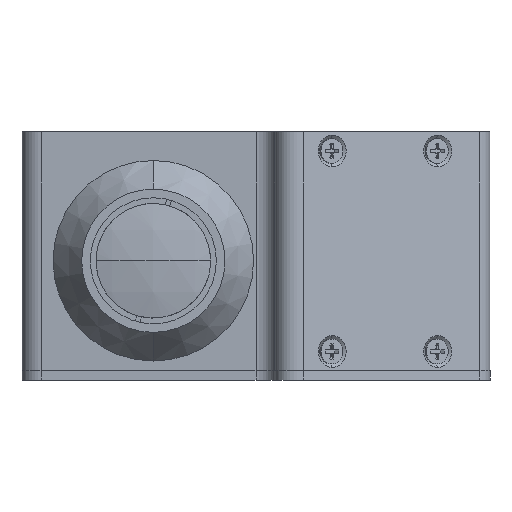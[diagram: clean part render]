
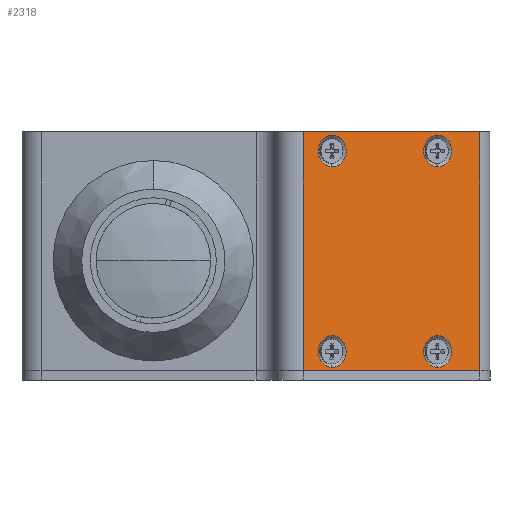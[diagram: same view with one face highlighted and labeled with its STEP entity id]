
A CAD part, left-side view. The second image highlights one B-rep face of the part: STEP entity #2318.
In plain terms, the highlighted planar face has unit normal (-0.883, -0.469, 0).
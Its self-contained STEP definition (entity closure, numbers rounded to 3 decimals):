
#390 = CARTESIAN_POINT ( 'NONE',  ( 54.176, -59.548, 19.7 ) ) ;
#497 = DIRECTION ( 'NONE',  ( -0.883, -0.469, 0. ) ) ;
#635 = CARTESIAN_POINT ( 'NONE',  ( 62.112, -74.473, -23. ) ) ;
#844 = FACE_BOUND ( 'NONE', #11584, .T. ) ;
#852 = EDGE_CURVE ( 'NONE', #2291, #12180, #873, .T. ) ;
#873 = CIRCLE ( 'NONE', #11207, 3.3 ) ;
#1096 = CARTESIAN_POINT ( 'NONE',  ( 42.439, -37.475, 23. ) ) ;
#1155 = LINE ( 'NONE', #635, #6713 ) ;
#1404 = LINE ( 'NONE', #13770, #3794 ) ;
#1427 = ORIENTED_EDGE ( 'NONE', *, *, #3530, .T. ) ;
#1550 = VERTEX_POINT ( 'NONE', #11408 ) ;
#1559 = ORIENTED_EDGE ( 'NONE', *, *, #10800, .F. ) ;
#1616 = AXIS2_PLACEMENT_3D ( 'NONE', #11337, #4250, #12520 ) ;
#1632 = DIRECTION ( 'NONE',  ( 0., 0., -1. ) ) ;
#1800 = CARTESIAN_POINT ( 'NONE',  ( 54.176, -59.548, 23. ) ) ;
#1947 = VERTEX_POINT ( 'NONE', #8772 ) ;
#2019 = CIRCLE ( 'NONE', #13973, 3.3 ) ;
#2121 = CARTESIAN_POINT ( 'NONE',  ( 42.439, -37.475, 19.7 ) ) ;
#2217 = ORIENTED_EDGE ( 'NONE', *, *, #12418, .F. ) ;
#2244 = CARTESIAN_POINT ( 'NONE',  ( 42.439, -37.475, 26.3 ) ) ;
#2251 = DIRECTION ( 'NONE',  ( 0., 0., 1. ) ) ;
#2291 = VERTEX_POINT ( 'NONE', #15095 ) ;
#2318 = ADVANCED_FACE ( 'NONE', ( #10265, #844, #13017, #13386, #9906 ), #12779, .T. ) ;
#2412 = CARTESIAN_POINT ( 'NONE',  ( 42.439, -37.475, -19. ) ) ;
#2596 = LINE ( 'NONE', #11936, #11667 ) ;
#2992 = DIRECTION ( 'NONE',  ( 0., 0., 1. ) ) ;
#3253 = VERTEX_POINT ( 'NONE', #2244 ) ;
#3307 = CIRCLE ( 'NONE', #1616, 3.3 ) ;
#3336 = CIRCLE ( 'NONE', #10706, 3.3 ) ;
#3488 = DIRECTION ( 'NONE',  ( -0.883, -0.469, 0. ) ) ;
#3530 = EDGE_CURVE ( 'NONE', #1947, #9601, #4133, .T. ) ;
#3590 = DIRECTION ( 'NONE',  ( 0., 0., 1. ) ) ;
#3794 = VECTOR ( 'NONE', #6725, 1000. ) ;
#4082 = EDGE_CURVE ( 'NONE', #3253, #12528, #6551, .T. ) ;
#4114 = CARTESIAN_POINT ( 'NONE',  ( 54.176, -59.548, -15.7 ) ) ;
#4133 = LINE ( 'NONE', #14628, #10431 ) ;
#4250 = DIRECTION ( 'NONE',  ( -0.883, -0.469, 0. ) ) ;
#4919 = DIRECTION ( 'NONE',  ( -0.883, -0.469, 0. ) ) ;
#5292 = CARTESIAN_POINT ( 'NONE',  ( 42.439, -37.475, -19. ) ) ;
#6143 = CARTESIAN_POINT ( 'NONE',  ( 54.176, -59.548, -22.3 ) ) ;
#6494 = DIRECTION ( 'NONE',  ( 0., 0., 1. ) ) ;
#6551 = CIRCLE ( 'NONE', #6607, 3.3 ) ;
#6607 = AXIS2_PLACEMENT_3D ( 'NONE', #7563, #497, #8761 ) ;
#6637 = CARTESIAN_POINT ( 'NONE',  ( 58.871, -68.378, -23. ) ) ;
#6648 = EDGE_CURVE ( 'NONE', #11627, #11763, #13680, .T. ) ;
#6679 = ORIENTED_EDGE ( 'NONE', *, *, #4082, .F. ) ;
#6713 = VECTOR ( 'NONE', #7697, 1000. ) ;
#6725 = DIRECTION ( 'NONE',  ( 0., 0., 1. ) ) ;
#6859 = ORIENTED_EDGE ( 'NONE', *, *, #12948, .F. ) ;
#6914 = DIRECTION ( 'NONE',  ( -0.883, -0.469, 0. ) ) ;
#7170 = ORIENTED_EDGE ( 'NONE', *, *, #6648, .F. ) ;
#7273 = CARTESIAN_POINT ( 'NONE',  ( 58.871, -68.378, 27. ) ) ;
#7482 = EDGE_LOOP ( 'NONE', ( #7836, #6859 ) ) ;
#7563 = CARTESIAN_POINT ( 'NONE',  ( 42.439, -37.475, 23. ) ) ;
#7697 = DIRECTION ( 'NONE',  ( -0.469, 0.883, 0. ) ) ;
#7836 = ORIENTED_EDGE ( 'NONE', *, *, #15094, .F. ) ;
#8170 = EDGE_LOOP ( 'NONE', ( #1559, #9545, #11996, #1427 ) ) ;
#8377 = EDGE_CURVE ( 'NONE', #12528, #3253, #12325, .T. ) ;
#8385 = DIRECTION ( 'NONE',  ( 0.469, -0.883, 0. ) ) ;
#8613 = CIRCLE ( 'NONE', #14785, 3.3 ) ;
#8761 = DIRECTION ( 'NONE',  ( 0., 0., 1. ) ) ;
#8772 = CARTESIAN_POINT ( 'NONE',  ( 39.181, -31.348, 27. ) ) ;
#8841 = EDGE_CURVE ( 'NONE', #13710, #14035, #1404, .T. ) ;
#9369 = DIRECTION ( 'NONE',  ( -0.883, -0.469, 0. ) ) ;
#9533 = CARTESIAN_POINT ( 'NONE',  ( 39.181, -31.348, -23. ) ) ;
#9545 = ORIENTED_EDGE ( 'NONE', *, *, #8841, .T. ) ;
#9601 = VERTEX_POINT ( 'NONE', #9533 ) ;
#9699 = CARTESIAN_POINT ( 'NONE',  ( 42.439, -37.475, -15.7 ) ) ;
#9906 = FACE_OUTER_BOUND ( 'NONE', #8170, .T. ) ;
#10099 = DIRECTION ( 'NONE',  ( -0.883, -0.469, 0. ) ) ;
#10222 = ORIENTED_EDGE ( 'NONE', *, *, #852, .F. ) ;
#10265 = FACE_BOUND ( 'NONE', #7482, .T. ) ;
#10431 = VECTOR ( 'NONE', #1632, 1000. ) ;
#10572 = CARTESIAN_POINT ( 'NONE',  ( 54.176, -59.548, -19. ) ) ;
#10683 = DIRECTION ( 'NONE',  ( -0.883, -0.469, 0. ) ) ;
#10706 = AXIS2_PLACEMENT_3D ( 'NONE', #2412, #10683, #3590 ) ;
#10800 = EDGE_CURVE ( 'NONE', #13710, #9601, #1155, .T. ) ;
#11010 = AXIS2_PLACEMENT_3D ( 'NONE', #12732, #6914, #15149 ) ;
#11093 = EDGE_CURVE ( 'NONE', #1947, #14035, #2596, .T. ) ;
#11207 = AXIS2_PLACEMENT_3D ( 'NONE', #5292, #13539, #6494 ) ;
#11337 = CARTESIAN_POINT ( 'NONE',  ( 54.176, -59.548, -19. ) ) ;
#11408 = CARTESIAN_POINT ( 'NONE',  ( 54.176, -59.548, 26.3 ) ) ;
#11529 = EDGE_CURVE ( 'NONE', #12180, #2291, #3336, .T. ) ;
#11584 = EDGE_LOOP ( 'NONE', ( #2217, #7170 ) ) ;
#11627 = VERTEX_POINT ( 'NONE', #6143 ) ;
#11656 = AXIS2_PLACEMENT_3D ( 'NONE', #1096, #9369, #2251 ) ;
#11667 = VECTOR ( 'NONE', #8385, 1000. ) ;
#11754 = DIRECTION ( 'NONE',  ( 0., 0., 1. ) ) ;
#11763 = VERTEX_POINT ( 'NONE', #4114 ) ;
#11936 = CARTESIAN_POINT ( 'NONE',  ( 62.112, -74.473, 27. ) ) ;
#11990 = CARTESIAN_POINT ( 'NONE',  ( 54.176, -59.548, 23. ) ) ;
#11996 = ORIENTED_EDGE ( 'NONE', *, *, #11093, .F. ) ;
#12180 = VERTEX_POINT ( 'NONE', #9699 ) ;
#12325 = CIRCLE ( 'NONE', #11656, 3.3 ) ;
#12418 = EDGE_CURVE ( 'NONE', #11763, #11627, #3307, .T. ) ;
#12520 = DIRECTION ( 'NONE',  ( 0., 0., 1. ) ) ;
#12528 = VERTEX_POINT ( 'NONE', #2121 ) ;
#12732 = CARTESIAN_POINT ( 'NONE',  ( 49.084, -49.971, 2. ) ) ;
#12779 = PLANE ( 'NONE',  #11010 ) ;
#12822 = EDGE_LOOP ( 'NONE', ( #14996, #10222 ) ) ;
#12948 = EDGE_CURVE ( 'NONE', #13534, #1550, #2019, .T. ) ;
#13017 = FACE_BOUND ( 'NONE', #12822, .T. ) ;
#13172 = DIRECTION ( 'NONE',  ( 0., 0., 1. ) ) ;
#13386 = FACE_BOUND ( 'NONE', #14519, .T. ) ;
#13534 = VERTEX_POINT ( 'NONE', #390 ) ;
#13539 = DIRECTION ( 'NONE',  ( -0.883, -0.469, 0. ) ) ;
#13680 = CIRCLE ( 'NONE', #14482, 3.3 ) ;
#13710 = VERTEX_POINT ( 'NONE', #6637 ) ;
#13770 = CARTESIAN_POINT ( 'NONE',  ( 58.871, -68.378, 2. ) ) ;
#13973 = AXIS2_PLACEMENT_3D ( 'NONE', #1800, #10099, #2992 ) ;
#14035 = VERTEX_POINT ( 'NONE', #7273 ) ;
#14482 = AXIS2_PLACEMENT_3D ( 'NONE', #10572, #3488, #11754 ) ;
#14519 = EDGE_LOOP ( 'NONE', ( #6679, #15260 ) ) ;
#14628 = CARTESIAN_POINT ( 'NONE',  ( 39.181, -31.348, 2. ) ) ;
#14785 = AXIS2_PLACEMENT_3D ( 'NONE', #11990, #4919, #13172 ) ;
#14996 = ORIENTED_EDGE ( 'NONE', *, *, #11529, .F. ) ;
#15094 = EDGE_CURVE ( 'NONE', #1550, #13534, #8613, .T. ) ;
#15095 = CARTESIAN_POINT ( 'NONE',  ( 42.439, -37.475, -22.3 ) ) ;
#15149 = DIRECTION ( 'NONE',  ( 0., 0., 1. ) ) ;
#15260 = ORIENTED_EDGE ( 'NONE', *, *, #8377, .F. ) ;
